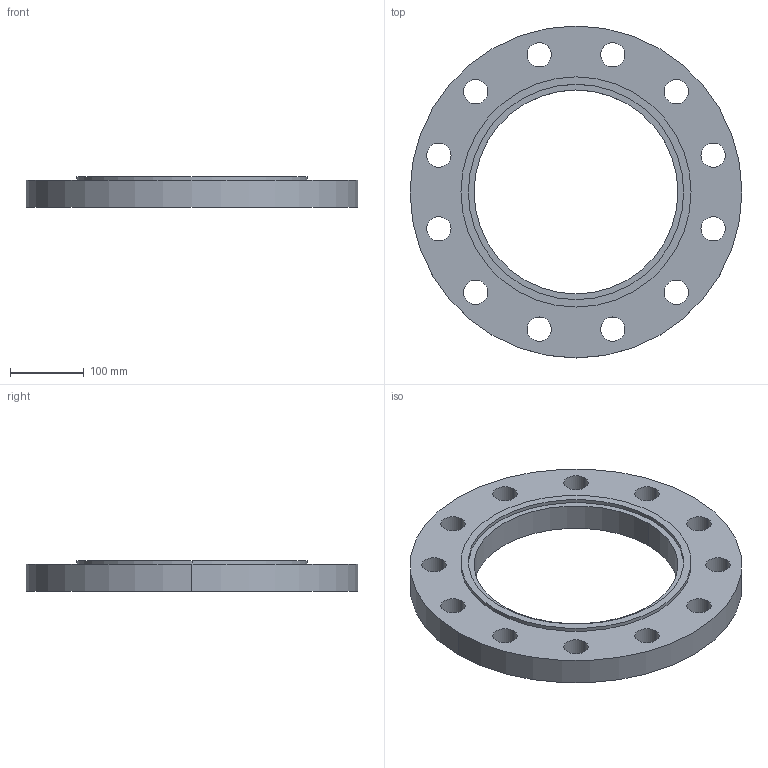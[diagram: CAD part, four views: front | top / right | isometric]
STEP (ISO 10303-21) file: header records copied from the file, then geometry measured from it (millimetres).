
FILE_DESCRIPTION (( 'STEP AP214' ), '1' );
FILE_NAME ('PN40 DN250 Type 01 - Type C Face.STEP', '2019-01-05T16:40:17', ( '' ), ( '' ), 'SwSTEP 2.0', 'SolidWorks 2019', '' );
FILE_SCHEMA (( 'AUTOMOTIVE_DESIGN' ));
Length unit declared in the file: millimetre
Products named in the file (1): PN40 DN250 Type 01 - Type C Face
Bounding box: 450 x 450 x 42 mm (x, y, z)
Volume: 3330599.3 mm3; surface area: 317434 mm2
Topology: 1 solids, 1 shells, 36 faces, 96 edges, 64 vertices
Faces by surface type: cylinder 32, plane 4
Entity records: 1250 total; most frequent: DIRECTION 234, CARTESIAN_POINT 197, ORIENTED_EDGE 192, AXIS2_PLACEMENT_3D 101, EDGE_CURVE 96, CIRCLE 64, EDGE_LOOP 64, VERTEX_POINT 64
